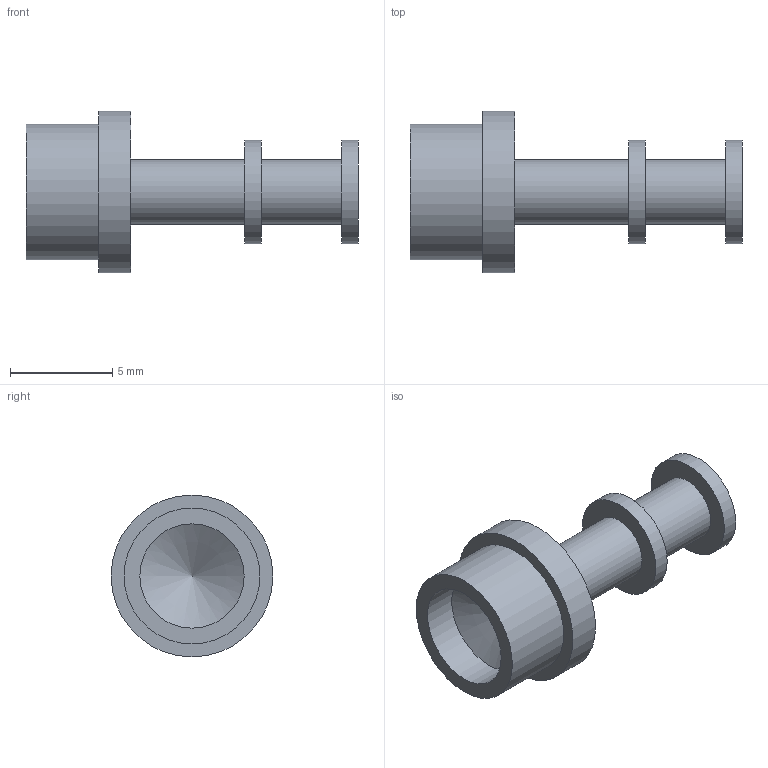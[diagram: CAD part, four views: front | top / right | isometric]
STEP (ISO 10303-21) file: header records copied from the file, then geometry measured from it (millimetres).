
FILE_DESCRIPTION(/* description */ (''),/* implementation_level */ '2;1');
FILE_NAME(/* name */ 'Z:\STEP folder\160-2110-03.ipt.stp',/* time_stamp */ '2016-12-07T10:51:39+00:00',/* author */ ('Paul Karlsons'),/* organization */ (''),/* preprocessor_version */ 'ST-DEVELOPER v15.2',/* originating_system */ 'Autodesk Inventor 2014',/* authorisation */ '');
FILE_SCHEMA (('AUTOMOTIVE_DESIGN { 1 0 10303 214 3 1 1 }'));
Length unit declared in the file: millimetre
Products named in the file (1): 160-2110-03
Bounding box: 16.26 x 7.92 x 7.92 mm (x, y, z)
Volume: 264 mm3; surface area: 412.1 mm2
Topology: 1 solids, 1 shells, 15 faces, 23 edges, 15 vertices
Faces by surface type: cylinder 7, plane 7, cone 1
Full cylindrical faces by diameter (mm): 3.175 x2, 5.08 x2, 5.105 x1, 6.655 x1, 7.92 x1
Entity records: 315 total; most frequent: DIRECTION 60, CARTESIAN_POINT 44, AXIS2_PLACEMENT_3D 30, EDGE_LOOP 28, ORIENTED_EDGE 28, FACE_BOUND 16, ADVANCED_FACE 15, CIRCLE 14
